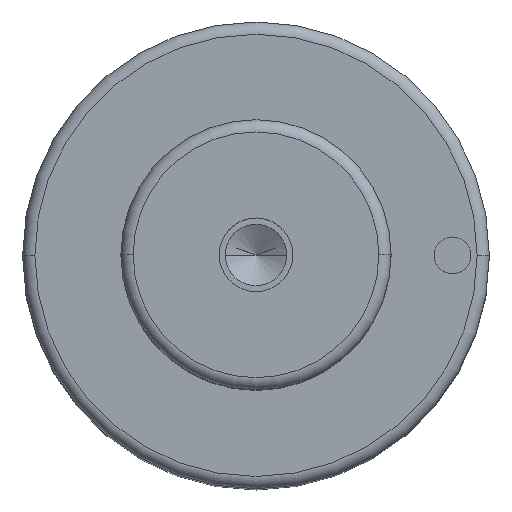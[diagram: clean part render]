
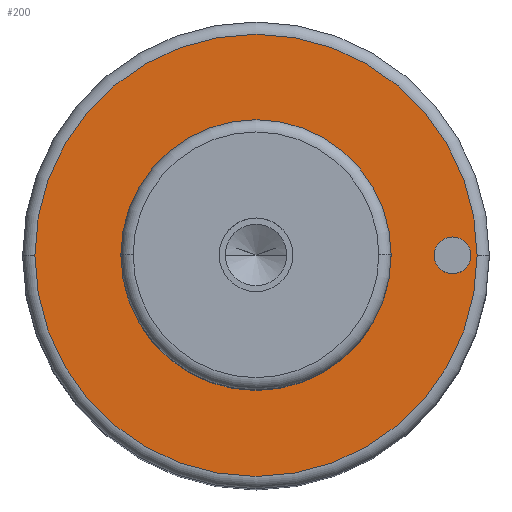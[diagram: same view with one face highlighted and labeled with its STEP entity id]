
A CAD part, top view. The second image highlights one B-rep face of the part: STEP entity #200.
In plain terms, the highlighted planar face has unit normal (0, 0, 1).
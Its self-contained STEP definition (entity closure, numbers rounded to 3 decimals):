
#99=PLANE('',#596);
#107=FACE_BOUND('',#265,.T.);
#108=FACE_BOUND('',#266,.T.);
#109=FACE_BOUND('',#267,.T.);
#200=ADVANCED_FACE('',(#107,#108,#109),#99,.T.);
#265=EDGE_LOOP('',(#359,#360));
#266=EDGE_LOOP('',(#361,#362));
#267=EDGE_LOOP('',(#363,#364));
#359=ORIENTED_EDGE('',*,*,#460,.F.);
#360=ORIENTED_EDGE('',*,*,#461,.F.);
#361=ORIENTED_EDGE('',*,*,#485,.F.);
#362=ORIENTED_EDGE('',*,*,#486,.F.);
#363=ORIENTED_EDGE('',*,*,#456,.T.);
#364=ORIENTED_EDGE('',*,*,#454,.T.);
#411=VERTEX_POINT('',#808);
#412=VERTEX_POINT('',#810);
#413=VERTEX_POINT('',#816);
#416=VERTEX_POINT('',#821);
#430=VERTEX_POINT('',#875);
#431=VERTEX_POINT('',#876);
#454=EDGE_CURVE('',#412,#411,#513,.T.);
#456=EDGE_CURVE('',#411,#412,#514,.T.);
#460=EDGE_CURVE('',#416,#413,#518,.T.);
#461=EDGE_CURVE('',#413,#416,#519,.T.);
#485=EDGE_CURVE('',#430,#431,#533,.T.);
#486=EDGE_CURVE('',#431,#430,#534,.T.);
#513=CIRCLE('',#558,11.);
#514=CIRCLE('',#560,11.);
#518=CIRCLE('',#565,18.);
#519=CIRCLE('',#567,18.);
#533=CIRCLE('',#594,1.5);
#534=CIRCLE('',#595,1.5);
#558=AXIS2_PLACEMENT_3D('',#809,#647,#648);
#560=AXIS2_PLACEMENT_3D('',#813,#652,#653);
#565=AXIS2_PLACEMENT_3D('',#822,#662,#663);
#567=AXIS2_PLACEMENT_3D('',#824,#666,#667);
#594=AXIS2_PLACEMENT_3D('',#874,#730,#731);
#595=AXIS2_PLACEMENT_3D('',#877,#732,#733);
#596=AXIS2_PLACEMENT_3D('',#878,#734,#735);
#647=DIRECTION('',(0.,0.,-1.));
#648=DIRECTION('',(0.,1.,0.));
#652=DIRECTION('',(0.,0.,-1.));
#653=DIRECTION('',(0.,-1.,0.));
#662=DIRECTION('',(0.,0.,-1.));
#663=DIRECTION('',(0.,1.,0.));
#666=DIRECTION('',(0.,0.,-1.));
#667=DIRECTION('',(0.,-1.,0.));
#730=DIRECTION('',(0.,0.,1.));
#731=DIRECTION('',(0.,1.,0.));
#732=DIRECTION('',(0.,0.,1.));
#733=DIRECTION('',(0.,-1.,0.));
#734=DIRECTION('',(0.,0.,1.));
#735=DIRECTION('',(0.,-1.,0.));
#808=CARTESIAN_POINT('',(-11.,0.,59.));
#809=CARTESIAN_POINT('',(0.,0.,59.));
#810=CARTESIAN_POINT('',(11.,0.,59.));
#813=CARTESIAN_POINT('',(0.,0.,59.));
#816=CARTESIAN_POINT('',(-18.,0.,59.));
#821=CARTESIAN_POINT('',(18.,0.,59.));
#822=CARTESIAN_POINT('',(0.,0.,59.));
#824=CARTESIAN_POINT('',(0.,0.,59.));
#874=CARTESIAN_POINT('',(16.,0.,59.));
#875=CARTESIAN_POINT('',(14.5,0.,59.));
#876=CARTESIAN_POINT('',(17.5,0.,59.));
#877=CARTESIAN_POINT('',(16.,0.,59.));
#878=CARTESIAN_POINT('',(0.,0.,59.));
